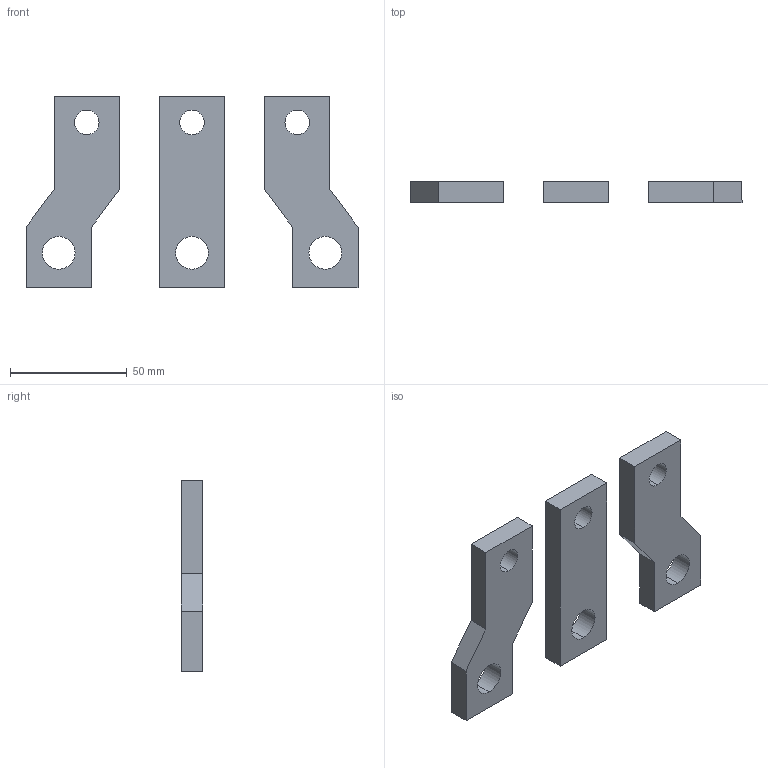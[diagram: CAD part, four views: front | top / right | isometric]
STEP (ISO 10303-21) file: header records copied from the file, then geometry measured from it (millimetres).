
FILE_DESCRIPTION (( 'STEP AP214' ), '1' );
FILE_NAME ('600 3 detali.STEP', '2025-11-26T12:11:29', ( '' ), ( '' ), 'SwSTEP 2.0', 'SolidWorks 2024', '' );
FILE_SCHEMA (( 'AUTOMOTIVE_DESIGN' ));
Length unit declared in the file: millimetre
Products named in the file (3): 600; 600 3 detali; 600 sr
Assembly tree (3 placements, depth 2):
  600 3 detali
    600  x2
    600 sr
Bounding box: 142 x 9 x 82 mm (x, y, z)
Volume: 55497.7 mm3; surface area: 20495 mm2
Topology: 3 solids, 3 shells, 38 faces, 96 edges, 64 vertices
Faces by surface type: plane 26, cylinder 12
Entity records: 832 total; most frequent: DIRECTION 136, CARTESIAN_POINT 130, ORIENTED_EDGE 120, EDGE_CURVE 60, AXIS2_PLACEMENT_3D 46, LINE 44, VECTOR 44, VERTEX_POINT 40
